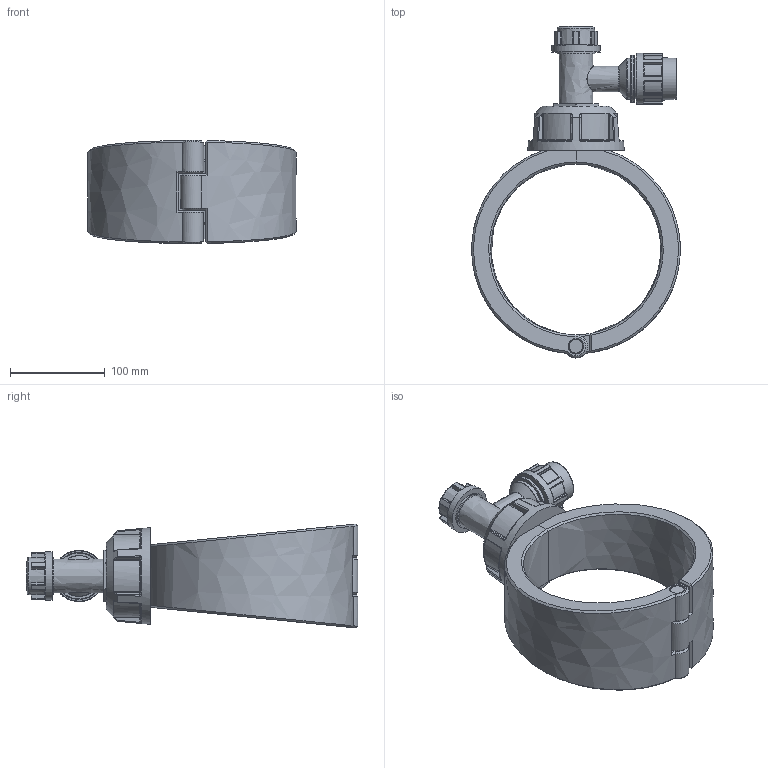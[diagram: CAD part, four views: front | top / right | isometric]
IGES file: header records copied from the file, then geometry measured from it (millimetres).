
Global section: file name: 1631061770250A; native system: Autodesk Inventor 2019; preprocessor: unknown; author: comp2; date: 20220203.115924; units: millimetre
Bounding box: 219.99 x 350 x 109.6 mm (x, y, z)
Volume: 1576192.9 mm3; surface area: 206112.8 mm2
Topology: 4 solids, 4 shells, 519 faces, 1253 edges, 754 vertices
Faces by surface type: bspline 519
